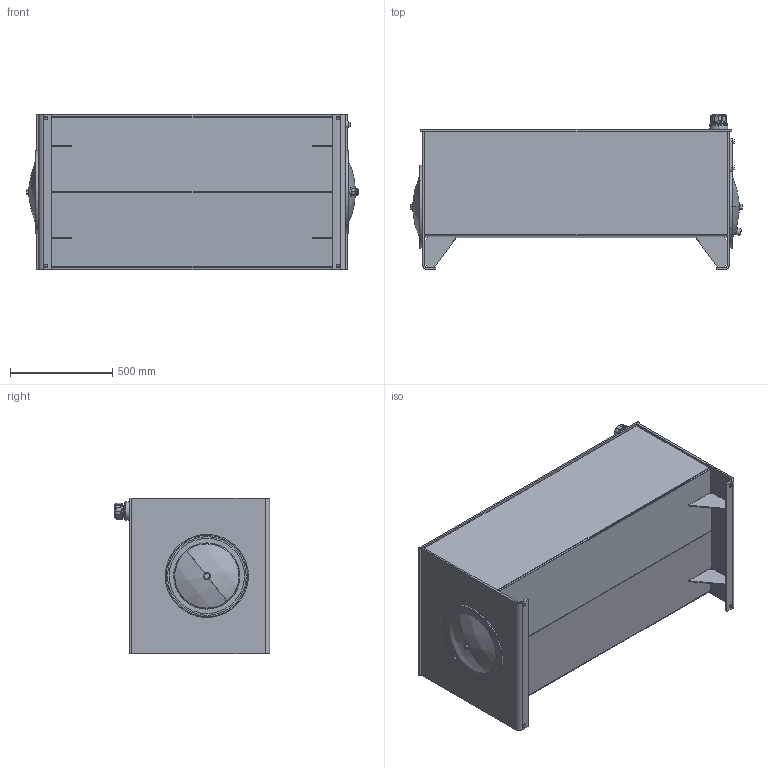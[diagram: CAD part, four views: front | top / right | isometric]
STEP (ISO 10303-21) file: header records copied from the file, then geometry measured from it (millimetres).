
FILE_DESCRIPTION (( 'STEP AP203' ), '1' );
FILE_NAME ('RJIC120-FT.STEP', '2015-01-07T16:42:35', ( '' ), ( '' ), 'SwSTEP 2.0', 'SolidWorks 2014', '' );
FILE_SCHEMA (( 'CONFIG_CONTROL_DESIGN' ));
Length unit declared in the file: inch
Products named in the file (1): RJIC120-FT
Bounding box: 1623.85 x 760.73 x 762 mm (x, y, z)
Volume: 31920061.8 mm3; surface area: 11976799.3 mm2
Topology: 19 solids, 19 shells, 608 faces, 1441 edges, 872 vertices
Faces by surface type: plane 233, cylinder 214, torus 63, bspline 48, sphere 32, cone 18
Entity records: 20350 total; most frequent: CARTESIAN_POINT 6207, DIRECTION 3056, ORIENTED_EDGE 2858, EDGE_CURVE 1429, AXIS2_PLACEMENT_3D 1202, VERTEX_POINT 872, EDGE_LOOP 683, LINE 652
